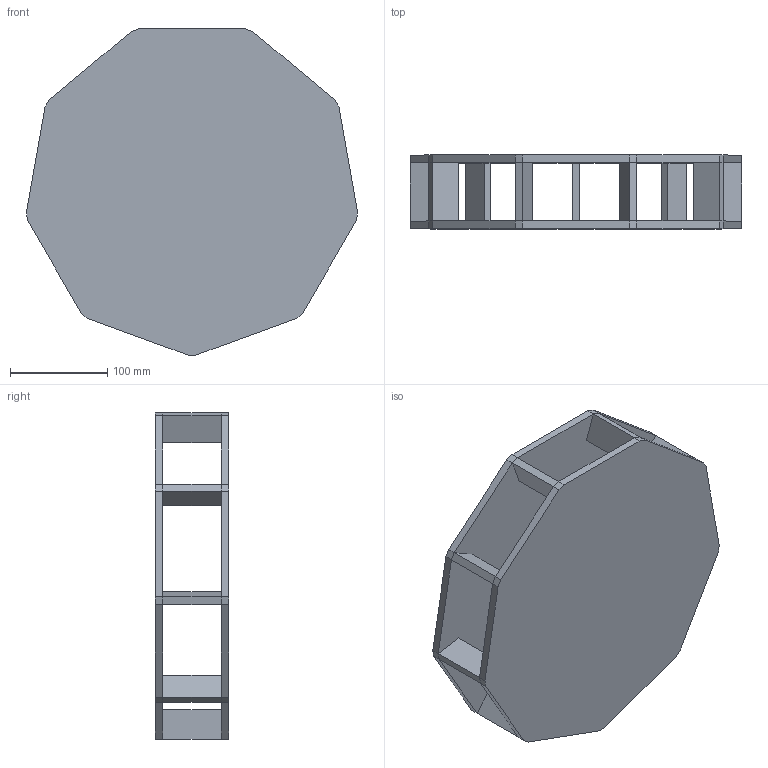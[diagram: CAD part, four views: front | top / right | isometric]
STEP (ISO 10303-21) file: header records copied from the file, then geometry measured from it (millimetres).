
FILE_DESCRIPTION (( 'STEP AP203' ), '1' );
FILE_NAME ('HAKU MINI Z.STEP', '2023-06-29T10:08:09', ( '' ), ( '' ), 'SwSTEP 2.0', 'SolidWorks 2023', '' );
FILE_SCHEMA (( 'CONFIG_CONTROL_DESIGN' ));
Length unit declared in the file: millimetre
Products named in the file (2): Group1^HAKU MINI Z; HAKU MINI Z
Assembly tree (1 placements, depth 2):
  HAKU MINI Z
    Group1^HAKU MINI Z
Bounding box: 341.21 x 76 x 336.02 mm (x, y, z)
Volume: 1529730.4 mm3; surface area: 403816.6 mm2
Topology: 1 solids, 1 shells, 76 faces, 198 edges, 108 vertices
Faces by surface type: plane 76
Entity records: 2414 total; most frequent: ORIENTED_EDGE 396, CARTESIAN_POINT 386, DIRECTION 358, EDGE_CURVE 198, VECTOR 198, LINE 198, VERTEX_POINT 108, AXIS2_PLACEMENT_3D 80
